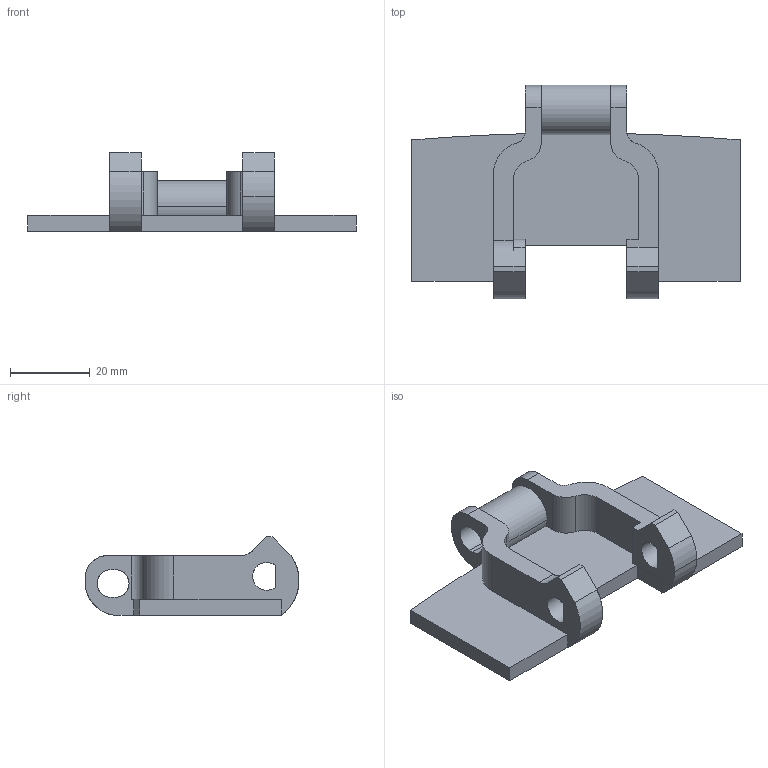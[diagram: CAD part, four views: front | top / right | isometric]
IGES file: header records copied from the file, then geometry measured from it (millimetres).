
Start section: SolidWorks IGES file using analytic representation for surfaces
Global section: file name: C:\Documents and Settings\URETIM3\Desktop\yeni katalog tolgay\880 týrnaklý dönüþlü bant\880 TKO 082.IGS; native system: SolidWorks 2006 by SolidWorks Corporation; preprocessor: SolidWorks 2006 by SolidWorks Corporation; author: URETIM3; date: 061030.093253; units: millimetre
Bounding box: 82.6 x 53.82 x 19.77 mm (x, y, z)
Surface area: 11043.2 mm2 (no closed solid volume)
Topology: 0 solids, 0 shells, 67 faces, 788 edges, 788 vertices
Faces by surface type: bspline 42, revolution 25
